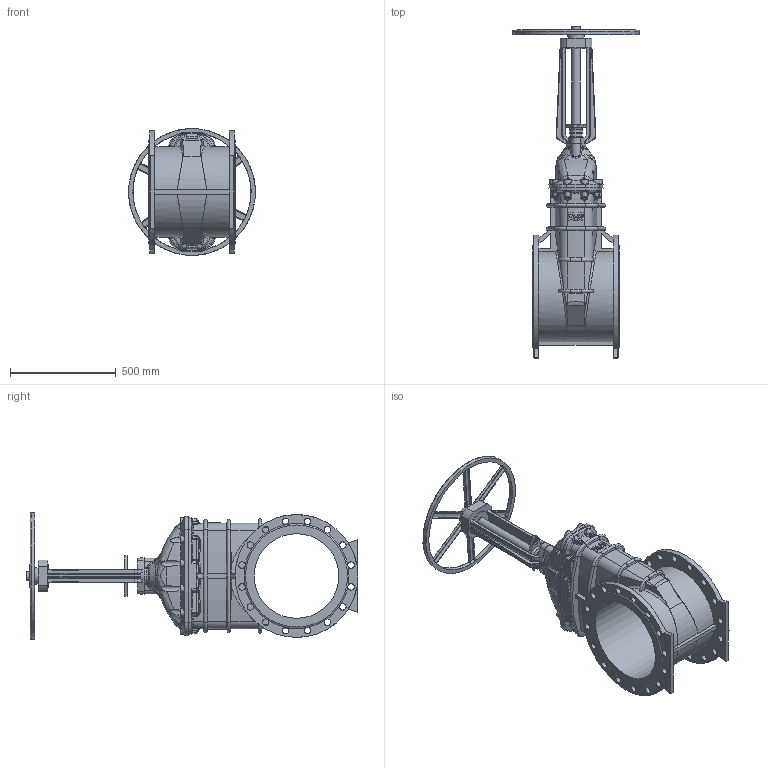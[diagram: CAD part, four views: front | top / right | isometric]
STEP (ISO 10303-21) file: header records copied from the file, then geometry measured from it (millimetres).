
FILE_DESCRIPTION (( 'STEP AP203' ), '1' );
FILE_NAME ('O_21_34_DN400_41XXXXX close_AA0.step', '2020-02-12T09:53:25', ( 'Windows User' ), ( 'AVK' ), 'SwSTEP 2.0', 'SolidWorks 2012', '' );
FILE_SCHEMA (( 'CONFIG_CONTROL_DESIGN' ));
Length unit declared in the file: millimetre
Products named in the file (1): O_21_34_DN400_41XXXXX close_AA0
Bounding box: 598.51 x 1567 x 598.51 mm (x, y, z)
Volume: 63933396.4 mm3; surface area: 3172182.6 mm2
Topology: 1 solids, 1 shells, 963 faces, 2584 edges, 1593 vertices
Faces by surface type: bspline 310, plane 204, cylinder 200, cone 146, torus 71, sphere 32
Full cylindrical faces by diameter (mm): 31 x32, 40 x2, 55.9 x1, 60 x1, 64 x1, 77 x1, 105 x1, 400 x1, 580 x2
Entity records: 46481 total; most frequent: CARTESIAN_POINT 25840, ORIENTED_EDGE 4960, DIRECTION 3454, EDGE_CURVE 2480, VERTEX_POINT 1548, AXIS2_PLACEMENT_3D 1468, EDGE_LOOP 1078, FACE_OUTER_BOUND 1008
